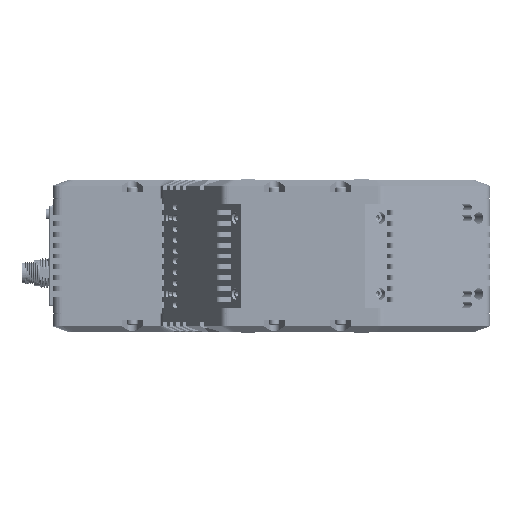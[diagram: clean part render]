
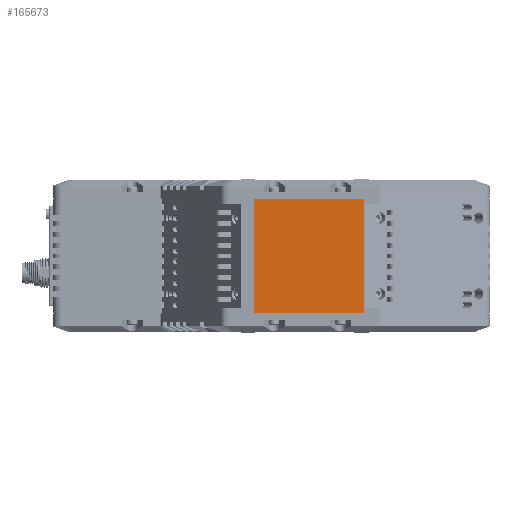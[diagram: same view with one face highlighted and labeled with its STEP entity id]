
A CAD part, left-side view. The second image highlights one B-rep face of the part: STEP entity #165673.
In plain terms, the highlighted planar face has unit normal (-1, 0, 0).
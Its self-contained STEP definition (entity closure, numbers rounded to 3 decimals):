
#9120=DIRECTION('',(0.,-1.,0.));
#9121=VECTOR('',#9120,58.028);
#9122=CARTESIAN_POINT('',(-142.5,204.387,-30.));
#9123=LINE('',#9122,#9121);
#9141=DIRECTION('',(0.,-1.,0.));
#9142=VECTOR('',#9141,58.028);
#9143=CARTESIAN_POINT('',(-142.5,204.387,30.));
#9144=LINE('',#9143,#9142);
#9155=DIRECTION('',(0.,0.,1.));
#9156=VECTOR('',#9155,60.);
#9157=CARTESIAN_POINT('',(-142.5,146.359,-30.));
#9158=LINE('',#9157,#9156);
#9162=DIRECTION('',(0.,0.,1.));
#9163=VECTOR('',#9162,60.);
#9164=CARTESIAN_POINT('',(-142.5,204.387,-30.));
#9165=LINE('',#9164,#9163);
#146780=CARTESIAN_POINT('',(-142.5,146.359,-30.));
#146781=CARTESIAN_POINT('',(-142.5,146.359,30.));
#146782=VERTEX_POINT('',#146780);
#146783=VERTEX_POINT('',#146781);
#146784=CARTESIAN_POINT('',(-142.5,204.387,-30.));
#146785=CARTESIAN_POINT('',(-142.5,204.387,30.));
#146786=VERTEX_POINT('',#146784);
#146787=VERTEX_POINT('',#146785);
#165662=CARTESIAN_POINT('',(-142.5,220.429,-30.));
#165663=DIRECTION('',(-1.,0.,0.));
#165664=DIRECTION('',(0.,-1.,0.));
#165665=AXIS2_PLACEMENT_3D('',#165662,#165663,#165664);
#165666=PLANE('',#165665);
#165667=ORIENTED_EDGE('',*,*,#165585,.F.);
#165668=ORIENTED_EDGE('',*,*,#165608,.F.);
#165669=ORIENTED_EDGE('',*,*,#165630,.T.);
#165670=ORIENTED_EDGE('',*,*,#165649,.T.);
#165671=EDGE_LOOP('',(#165667,#165668,#165669,#165670));
#165672=FACE_OUTER_BOUND('',#165671,.F.);
#165585=EDGE_CURVE('',#146782,#146783,#9158,.T.);
#165608=EDGE_CURVE('',#146786,#146782,#9123,.T.);
#165630=EDGE_CURVE('',#146786,#146787,#9165,.T.);
#165649=EDGE_CURVE('',#146787,#146783,#9144,.T.);
#165673=ADVANCED_FACE('',(#165672),#165666,.T.);
